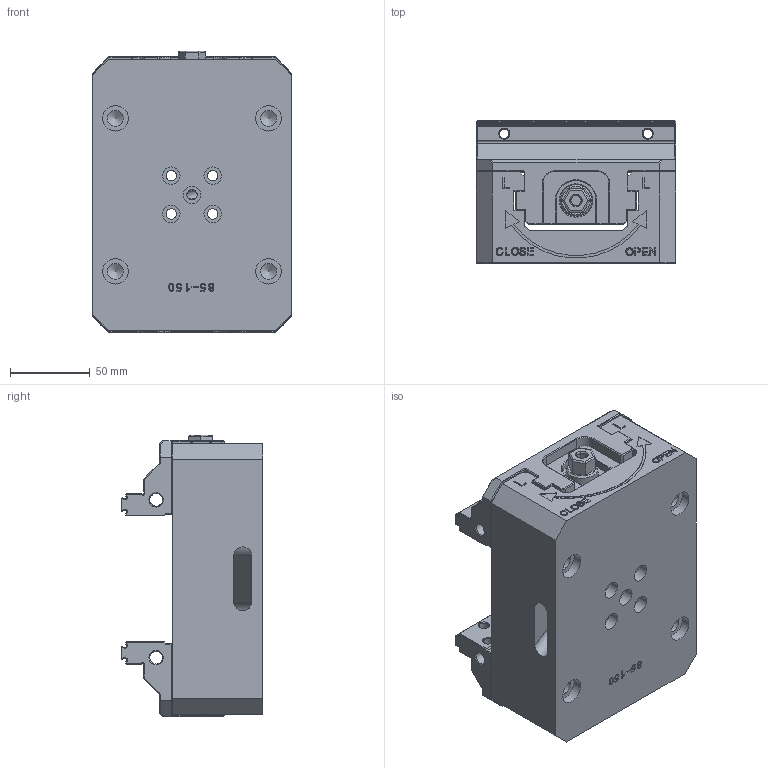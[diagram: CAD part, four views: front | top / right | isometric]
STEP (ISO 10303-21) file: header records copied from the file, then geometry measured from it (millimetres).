
FILE_DESCRIPTION(/* description */ (''),/* implementation_level */ '2;1');
FILE_NAME(/* name */ '',/* time_stamp */ '2023-05-26T16:04:29+08:00',/* author */ (''),/* organization */ (''),/* preprocessor_version */ 'ST-DEVELOPER v11',/* originating_system */ 'SIEMENS PLM Software NX 7.0',/* authorisation */ '');
FILE_SCHEMA (('CONFIG_CONTROL_DESIGN'));
Products named in the file (1): AdmiDBD826xi
Bounding box: 125 x 89 x 176.5 mm (x, y, z)
Volume: 1102387.1 mm3; surface area: 175996.8 mm2
Topology: 4 solids, 4 shells, 1563 faces, 4274 edges, 2764 vertices
Faces by surface type: plane 952, cylinder 454, cone 82, extrusion 60, bspline 12, torus 3
Full cylindrical faces by diameter (mm): 6 x12, 6.5 x5, 8 x4, 10 x4, 11 x5, 16.005 x4, 18 x4, 20 x2, 24 x2
Entity records: 55672 total; most frequent: CARTESIAN_POINT 17245, ORIENTED_EDGE 8296, DIRECTION 7315, EDGE_CURVE 4148, VERTEX_POINT 2733, VECTOR 2723, LINE 2663, AXIS2_PLACEMENT_3D 2296
